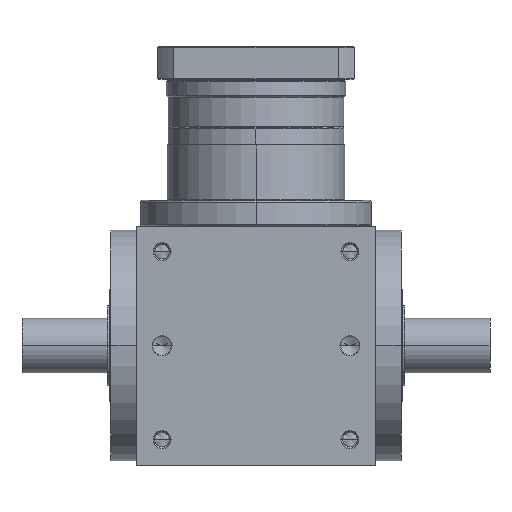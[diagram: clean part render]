
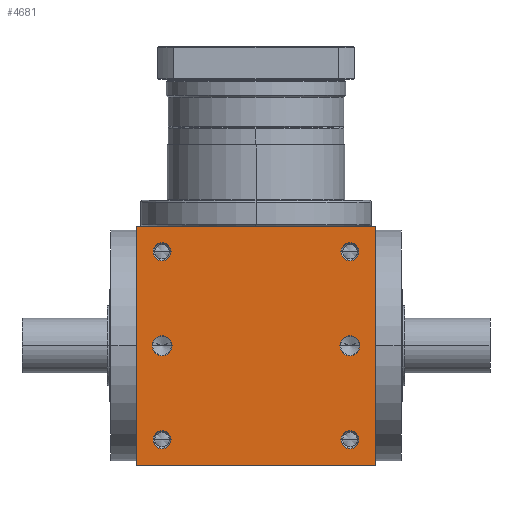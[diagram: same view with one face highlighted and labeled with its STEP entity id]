
A CAD part, front view. The second image highlights one B-rep face of the part: STEP entity #4681.
In plain terms, the highlighted planar face has unit normal (0, -1, 0).
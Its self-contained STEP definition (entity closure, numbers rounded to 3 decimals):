
#5=DIRECTION('',(1.,0.,0.));
#6=VECTOR('',#5,140.);
#7=CARTESIAN_POINT('',(-70.,-70.,-70.));
#8=LINE('',#7,#6);
#155=DIRECTION('',(0.,0.,1.));
#156=VECTOR('',#155,140.);
#157=CARTESIAN_POINT('',(70.,-70.,-70.));
#158=LINE('',#157,#156);
#209=DIRECTION('',(0.,0.,1.));
#210=VECTOR('',#209,140.);
#211=CARTESIAN_POINT('',(-70.,-70.,-70.));
#212=LINE('',#211,#210);
#213=CARTESIAN_POINT('',(55.,-70.,55.));
#214=DIRECTION('',(0.,1.,0.));
#215=DIRECTION('',(-1.,0.,0.));
#216=AXIS2_PLACEMENT_3D('',#213,#214,#215);
#218=CARTESIAN_POINT('',(55.,-70.,55.));
#219=DIRECTION('',(0.,1.,0.));
#220=DIRECTION('',(1.,0.,0.));
#221=AXIS2_PLACEMENT_3D('',#218,#219,#220);
#223=CARTESIAN_POINT('',(-55.,-70.,55.));
#224=DIRECTION('',(0.,1.,0.));
#225=DIRECTION('',(-1.,0.,0.));
#226=AXIS2_PLACEMENT_3D('',#223,#224,#225);
#228=CARTESIAN_POINT('',(-55.,-70.,55.));
#229=DIRECTION('',(0.,1.,0.));
#230=DIRECTION('',(1.,0.,0.));
#231=AXIS2_PLACEMENT_3D('',#228,#229,#230);
#233=CARTESIAN_POINT('',(55.,-70.,-55.));
#234=DIRECTION('',(0.,1.,0.));
#235=DIRECTION('',(-1.,0.,0.));
#236=AXIS2_PLACEMENT_3D('',#233,#234,#235);
#238=CARTESIAN_POINT('',(55.,-70.,-55.));
#239=DIRECTION('',(0.,1.,0.));
#240=DIRECTION('',(1.,0.,0.));
#241=AXIS2_PLACEMENT_3D('',#238,#239,#240);
#243=CARTESIAN_POINT('',(-55.,-70.,-55.));
#244=DIRECTION('',(0.,1.,0.));
#245=DIRECTION('',(-1.,0.,0.));
#246=AXIS2_PLACEMENT_3D('',#243,#244,#245);
#248=CARTESIAN_POINT('',(-55.,-70.,-55.));
#249=DIRECTION('',(0.,1.,0.));
#250=DIRECTION('',(1.,0.,0.));
#251=AXIS2_PLACEMENT_3D('',#248,#249,#250);
#253=CARTESIAN_POINT('',(-55.,-70.,0.));
#254=DIRECTION('',(0.,1.,0.));
#255=DIRECTION('',(1.,0.,0.));
#256=AXIS2_PLACEMENT_3D('',#253,#254,#255);
#258=CARTESIAN_POINT('',(-55.,-70.,0.));
#259=DIRECTION('',(0.,1.,0.));
#260=DIRECTION('',(-1.,0.,0.));
#261=AXIS2_PLACEMENT_3D('',#258,#259,#260);
#263=CARTESIAN_POINT('',(55.,-70.,0.));
#264=DIRECTION('',(0.,1.,0.));
#265=DIRECTION('',(1.,0.,0.));
#266=AXIS2_PLACEMENT_3D('',#263,#264,#265);
#268=CARTESIAN_POINT('',(55.,-70.,0.));
#269=DIRECTION('',(0.,1.,0.));
#270=DIRECTION('',(-1.,0.,0.));
#271=AXIS2_PLACEMENT_3D('',#268,#269,#270);
#285=DIRECTION('',(1.,0.,0.));
#286=VECTOR('',#285,140.);
#287=CARTESIAN_POINT('',(-70.,-70.,70.));
#288=LINE('',#287,#286);
#3754=CARTESIAN_POINT('',(-70.,-70.,-70.));
#3756=VERTEX_POINT('',#3754);
#3757=CARTESIAN_POINT('',(70.,-70.,-70.));
#3758=VERTEX_POINT('',#3757);
#3762=CARTESIAN_POINT('',(-70.,-70.,70.));
#3764=VERTEX_POINT('',#3762);
#3765=CARTESIAN_POINT('',(70.,-70.,70.));
#3766=VERTEX_POINT('',#3765);
#3945=CARTESIAN_POINT('',(49.75,-70.,55.));
#3946=CARTESIAN_POINT('',(60.25,-70.,55.));
#3947=VERTEX_POINT('',#3945);
#3948=VERTEX_POINT('',#3946);
#3953=CARTESIAN_POINT('',(-60.25,-70.,55.));
#3954=CARTESIAN_POINT('',(-49.75,-70.,55.));
#3955=VERTEX_POINT('',#3953);
#3956=VERTEX_POINT('',#3954);
#3961=CARTESIAN_POINT('',(49.75,-70.,-55.));
#3962=CARTESIAN_POINT('',(60.25,-70.,-55.));
#3963=VERTEX_POINT('',#3961);
#3964=VERTEX_POINT('',#3962);
#3969=CARTESIAN_POINT('',(-60.25,-70.,-55.));
#3970=CARTESIAN_POINT('',(-49.75,-70.,-55.));
#3971=VERTEX_POINT('',#3969);
#3972=VERTEX_POINT('',#3970);
#4329=CARTESIAN_POINT('',(-49.15,-70.,
0.));
#4330=CARTESIAN_POINT('',(-60.85,-70.,
0.));
#4331=VERTEX_POINT('',#4329);
#4332=VERTEX_POINT('',#4330);
#4337=CARTESIAN_POINT('',(60.85,-70.,0.));
#4338=CARTESIAN_POINT('',(49.15,-70.,0.));
#4339=VERTEX_POINT('',#4337);
#4340=VERTEX_POINT('',#4338);
#4633=CARTESIAN_POINT('',(-70.,-70.,-70.));
#4634=DIRECTION('',(0.,-1.,0.));
#4635=DIRECTION('',(1.,0.,0.));
#4636=AXIS2_PLACEMENT_3D('',#4633,#4634,#4635);
#4637=PLANE('',#4636);
#4638=ORIENTED_EDGE('',*,*,#4473,.F.);
#4639=ORIENTED_EDGE('',*,*,#4516,.T.);
#4641=ORIENTED_EDGE('',*,*,#4640,.T.);
#4642=ORIENTED_EDGE('',*,*,#4595,.F.);
#4643=EDGE_LOOP('',(#4638,#4639,#4641,#4642));
#4644=FACE_OUTER_BOUND('',#4643,.F.);
#4646=ORIENTED_EDGE('',*,*,#4645,.F.);
#4648=ORIENTED_EDGE('',*,*,#4647,.F.);
#4649=EDGE_LOOP('',(#4646,#4648));
#4650=FACE_BOUND('',#4649,.F.);
#4652=ORIENTED_EDGE('',*,*,#4651,.F.);
#4654=ORIENTED_EDGE('',*,*,#4653,.F.);
#4655=EDGE_LOOP('',(#4652,#4654));
#4656=FACE_BOUND('',#4655,.F.);
#4658=ORIENTED_EDGE('',*,*,#4657,.F.);
#4660=ORIENTED_EDGE('',*,*,#4659,.F.);
#4661=EDGE_LOOP('',(#4658,#4660));
#4662=FACE_BOUND('',#4661,.F.);
#4664=ORIENTED_EDGE('',*,*,#4663,.F.);
#4666=ORIENTED_EDGE('',*,*,#4665,.F.);
#4667=EDGE_LOOP('',(#4664,#4666));
#4668=FACE_BOUND('',#4667,.F.);
#4670=ORIENTED_EDGE('',*,*,#4669,.F.);
#4672=ORIENTED_EDGE('',*,*,#4671,.F.);
#4673=EDGE_LOOP('',(#4670,#4672));
#4674=FACE_BOUND('',#4673,.F.);
#4676=ORIENTED_EDGE('',*,*,#4675,.F.);
#4678=ORIENTED_EDGE('',*,*,#4677,.F.);
#4679=EDGE_LOOP('',(#4676,#4678));
#4680=FACE_BOUND('',#4679,.F.);
#4681=ADVANCED_FACE('',(#4644,#4650,#4656,#4662,#4668,#4674,#4680),#4637,.T.);
#217=CIRCLE('',#216,5.25);
#222=CIRCLE('',#221,5.25);
#227=CIRCLE('',#226,5.25);
#232=CIRCLE('',#231,5.25);
#237=CIRCLE('',#236,5.25);
#242=CIRCLE('',#241,5.25);
#247=CIRCLE('',#246,5.25);
#252=CIRCLE('',#251,5.25);
#257=CIRCLE('',#256,5.85);
#262=CIRCLE('',#261,5.85);
#267=CIRCLE('',#266,5.85);
#272=CIRCLE('',#271,5.85);
#4473=EDGE_CURVE('',#3756,#3758,#8,.T.);
#4516=EDGE_CURVE('',#3756,#3764,#212,.T.);
#4595=EDGE_CURVE('',#3758,#3766,#158,.T.);
#4640=EDGE_CURVE('',#3764,#3766,#288,.T.);
#4645=EDGE_CURVE('',#3947,#3948,#217,.T.);
#4647=EDGE_CURVE('',#3948,#3947,#222,.T.);
#4651=EDGE_CURVE('',#3955,#3956,#227,.T.);
#4653=EDGE_CURVE('',#3956,#3955,#232,.T.);
#4657=EDGE_CURVE('',#3963,#3964,#237,.T.);
#4659=EDGE_CURVE('',#3964,#3963,#242,.T.);
#4663=EDGE_CURVE('',#3971,#3972,#247,.T.);
#4665=EDGE_CURVE('',#3972,#3971,#252,.T.);
#4669=EDGE_CURVE('',#4331,#4332,#257,.T.);
#4671=EDGE_CURVE('',#4332,#4331,#262,.T.);
#4675=EDGE_CURVE('',#4339,#4340,#267,.T.);
#4677=EDGE_CURVE('',#4340,#4339,#272,.T.);
